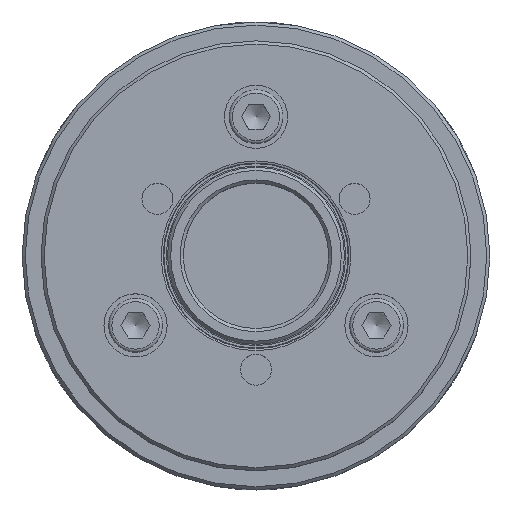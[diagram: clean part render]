
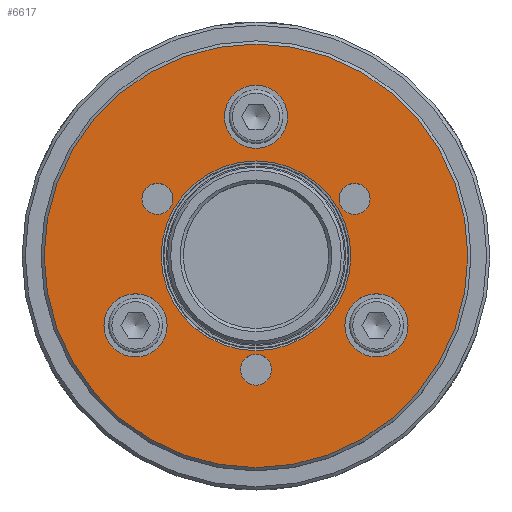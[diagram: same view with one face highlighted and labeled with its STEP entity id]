
A CAD part, top view. The second image highlights one B-rep face of the part: STEP entity #6617.
In plain terms, the highlighted planar face has unit normal (0, 0, 1) as drawn and (1, 0, 0) by its records, which use the part's own axes.
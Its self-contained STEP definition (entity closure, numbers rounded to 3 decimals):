
#226=FACE_BOUND('',#1238,.T.);
#227=FACE_BOUND('',#1239,.T.);
#228=FACE_BOUND('',#1240,.T.);
#229=FACE_BOUND('',#1241,.T.);
#230=FACE_BOUND('',#1242,.T.);
#231=FACE_BOUND('',#1243,.T.);
#232=FACE_BOUND('',#1244,.T.);
#233=FACE_BOUND('',#1245,.T.);
#1238=EDGE_LOOP('',(#5947));
#1239=EDGE_LOOP('',(#5948));
#1240=EDGE_LOOP('',(#5949));
#1241=EDGE_LOOP('',(#5950));
#1242=EDGE_LOOP('',(#5951));
#1243=EDGE_LOOP('',(#5952));
#1244=EDGE_LOOP('',(#5953));
#1245=EDGE_LOOP('',(#5954));
#1515=CIRCLE('',#7209,33.5);
#1516=CIRCLE('',#7211,15.);
#1517=CIRCLE('',#7212,2.459);
#1518=CIRCLE('',#7213,2.459);
#1519=CIRCLE('',#7214,2.459);
#1520=CIRCLE('',#7215,5.);
#1521=CIRCLE('',#7216,5.);
#1522=CIRCLE('',#7217,5.);
#3313=VERTEX_POINT('',#11520);
#3314=VERTEX_POINT('',#11523);
#3315=VERTEX_POINT('',#11525);
#3316=VERTEX_POINT('',#11527);
#3317=VERTEX_POINT('',#11529);
#3318=VERTEX_POINT('',#11531);
#3319=VERTEX_POINT('',#11533);
#3320=VERTEX_POINT('',#11535);
#4206=EDGE_CURVE('',#3313,#3313,#1515,.T.);
#4207=EDGE_CURVE('',#3314,#3314,#1516,.T.);
#4208=EDGE_CURVE('',#3315,#3315,#1517,.T.);
#4209=EDGE_CURVE('',#3316,#3316,#1518,.T.);
#4210=EDGE_CURVE('',#3317,#3317,#1519,.T.);
#4211=EDGE_CURVE('',#3318,#3318,#1520,.T.);
#4212=EDGE_CURVE('',#3319,#3319,#1521,.T.);
#4213=EDGE_CURVE('',#3320,#3320,#1522,.T.);
#5947=ORIENTED_EDGE('',*,*,#4207,.F.);
#5948=ORIENTED_EDGE('',*,*,#4208,.T.);
#5949=ORIENTED_EDGE('',*,*,#4209,.T.);
#5950=ORIENTED_EDGE('',*,*,#4210,.T.);
#5951=ORIENTED_EDGE('',*,*,#4211,.T.);
#5952=ORIENTED_EDGE('',*,*,#4212,.T.);
#5953=ORIENTED_EDGE('',*,*,#4213,.T.);
#5954=ORIENTED_EDGE('',*,*,#4206,.F.);
#6270=PLANE('',#7210);
#6617=ADVANCED_FACE('',(#226,#227,#228,#229,#230,#231,#232,#233),#6270,
 .T.);
#7209=AXIS2_PLACEMENT_3D('',#11521,#8948,#8949);
#7210=AXIS2_PLACEMENT_3D('',#11522,#8950,#8951);
#7211=AXIS2_PLACEMENT_3D('',#11524,#8952,#8953);
#7212=AXIS2_PLACEMENT_3D('',#11526,#8954,#8955);
#7213=AXIS2_PLACEMENT_3D('',#11528,#8956,#8957);
#7214=AXIS2_PLACEMENT_3D('',#11530,#8958,#8959);
#7215=AXIS2_PLACEMENT_3D('',#11532,#8960,#8961);
#7216=AXIS2_PLACEMENT_3D('',#11534,#8962,#8963);
#7217=AXIS2_PLACEMENT_3D('',#11536,#8964,#8965);
#8948=DIRECTION('center_axis',(-1.,0.,0.));
#8949=DIRECTION('ref_axis',(0.,-1.,0.));
#8950=DIRECTION('center_axis',(1.,0.,0.));
#8951=DIRECTION('ref_axis',(0.,0.,-1.));
#8952=DIRECTION('center_axis',(1.,0.,0.));
#8953=DIRECTION('ref_axis',(0.,0.,-1.));
#8954=DIRECTION('center_axis',(-1.,0.,0.));
#8955=DIRECTION('ref_axis',(0.,0.,-1.));
#8956=DIRECTION('center_axis',(-1.,0.,0.));
#8957=DIRECTION('ref_axis',(0.,0.866,0.5));
#8958=DIRECTION('center_axis',(-1.,0.,0.));
#8959=DIRECTION('ref_axis',(0.,-0.866,0.5));
#8960=DIRECTION('center_axis',(-1.,0.,0.));
#8961=DIRECTION('ref_axis',(0.,0.,-1.));
#8962=DIRECTION('center_axis',(-1.,0.,0.));
#8963=DIRECTION('ref_axis',(0.,0.866,0.5));
#8964=DIRECTION('center_axis',(-1.,0.,0.));
#8965=DIRECTION('ref_axis',(0.,-0.866,0.5));
#11520=CARTESIAN_POINT('',(-3.137,30.119,0.));
#11521=CARTESIAN_POINT('Origin',(-3.137,-3.381,0.));
#11522=CARTESIAN_POINT('Origin',(-3.137,11.619,0.));
#11523=CARTESIAN_POINT('',(-3.137,11.619,0.));
#11524=CARTESIAN_POINT('Origin',(-3.137,-3.381,0.));
#11525=CARTESIAN_POINT('',(-3.137,14.619,-2.459));
#11526=CARTESIAN_POINT('Origin',(-3.137,14.619,0.));
#11527=CARTESIAN_POINT('',(-3.137,-10.252,16.818));
#11528=CARTESIAN_POINT('Origin',(-3.137,-12.381,15.588));
#11529=CARTESIAN_POINT('',(-3.137,-14.51,-14.359));
#11530=CARTESIAN_POINT('Origin',(-3.137,-12.381,-15.588));
#11531=CARTESIAN_POINT('',(-3.137,-25.381,-5.));
#11532=CARTESIAN_POINT('Origin',(-3.137,-25.381,0.));
#11533=CARTESIAN_POINT('',(-3.137,11.949,-16.553));
#11534=CARTESIAN_POINT('Origin',(-3.137,7.619,-19.053));
#11535=CARTESIAN_POINT('',(-3.137,3.289,21.553));
#11536=CARTESIAN_POINT('Origin',(-3.137,7.619,19.053));
